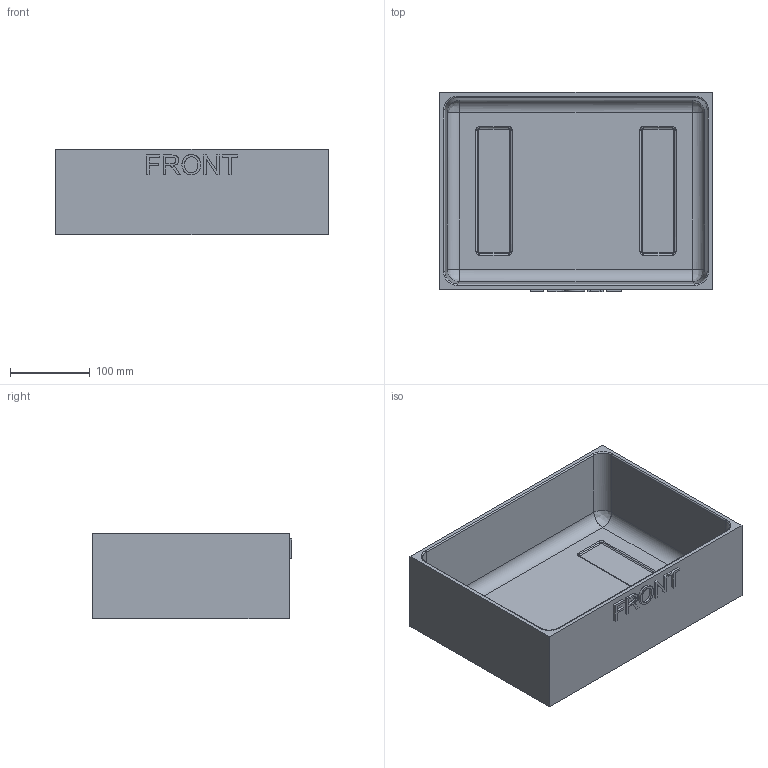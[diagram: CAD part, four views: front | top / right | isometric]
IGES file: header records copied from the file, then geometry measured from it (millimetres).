
Start section: Comment
Global section: file name: 2100-base_internal_tub.igs; native system:  By UGS Corp.; preprocessor: XPlus GENERIC/IGES 3.0; author: Author; organization: Title; date: 20100512.150840; units: millimetre
Bounding box: 342.9 x 250.82 x 107.95 mm (x, y, z)
Surface area: 399422.8 mm2 (no closed solid volume)
Topology: 0 solids, 0 shells, 113 faces, 762 edges, 758 vertices
Faces by surface type: bspline 113
